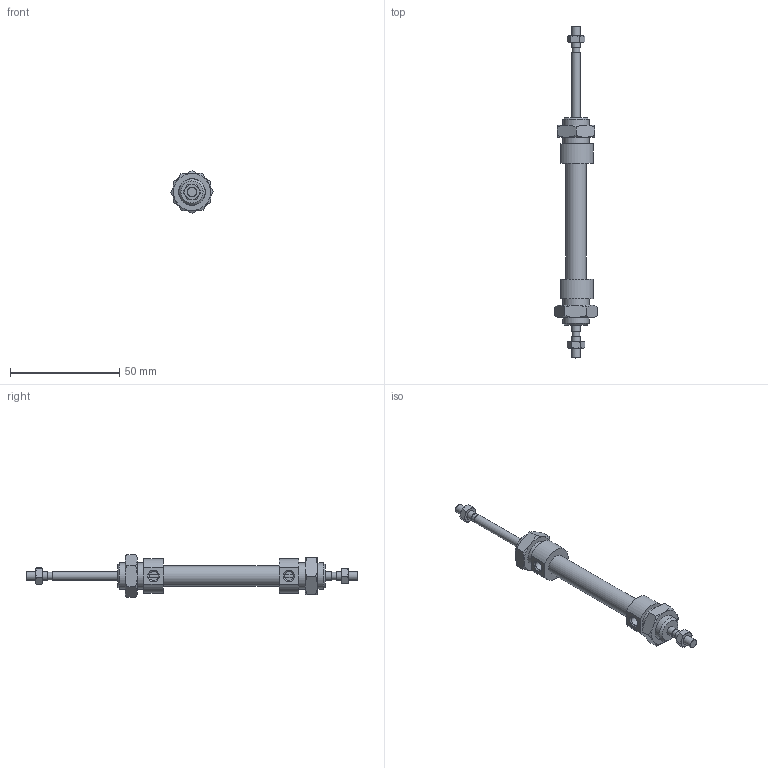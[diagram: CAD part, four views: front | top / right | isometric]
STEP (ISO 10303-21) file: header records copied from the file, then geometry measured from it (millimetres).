
FILE_DESCRIPTION((''),'2;1');
FILE_NAME('I:\Area Tecnica\Disegni\VARIE-3D\Componenti\1280\1282_##_####_#\1282_08_0025.iam.stp','2009-06-03T15:23:14',(''),(''),'Autodesk Inventor 2010','Autodesk Inventor 2010','');
FILE_SCHEMA(('AUTOMOTIVE_DESIGN { 1 0 10303 214 1 1 1 1 }'));
Length unit declared in the file: millimetre
Products named in the file (5): 1282_08_0025; C1282_08_25; S1282_08_25; 1200_08_05; 1200_08_06
Assembly tree (6 placements, depth 2):
  1282_08_0025
    C1282_08_25
    S1282_08_25
    1200_08_05  x2
    1200_08_06  x2
Bounding box: 19.63 x 152 x 19.63 mm (x, y, z)
Volume: 12183.6 mm3; surface area: 9032.7 mm2
Topology: 6 solids, 6 shells, 127 faces, 271 edges, 162 vertices
Faces by surface type: cone 52, plane 46, bspline 18, cylinder 11
Full cylindrical faces by diameter (mm): 3.5 x2, 4 x4, 9.2 x1, 12 x2
Entity records: 2371 total; most frequent: CARTESIAN_POINT 641, DIRECTION 310, ORIENTED_EDGE 280, AXIS2_PLACEMENT_3D 143, EDGE_CURVE 140, EDGE_LOOP 120, VERTEX_POINT 96, STYLED_ITEM 85
